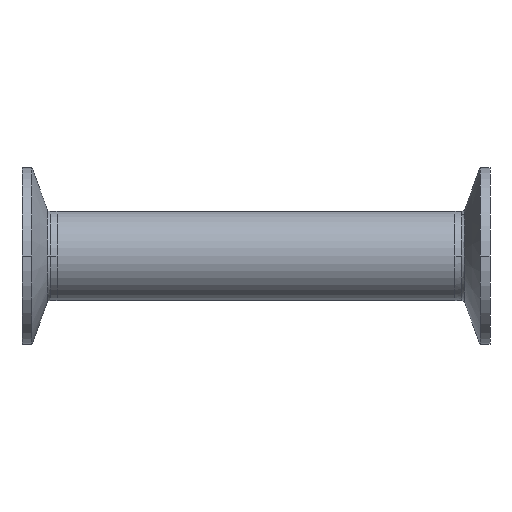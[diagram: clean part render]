
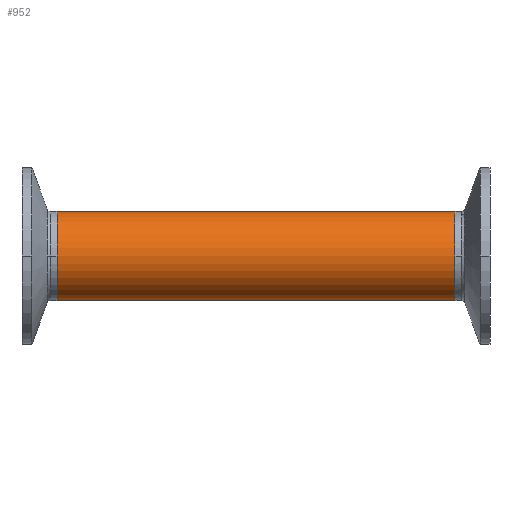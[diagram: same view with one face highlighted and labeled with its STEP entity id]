
A CAD part, front view. The second image highlights one B-rep face of the part: STEP entity #952.
In plain terms, the highlighted cylindrical face has radius 12.7 mm (diameter 25.4 mm), a partial arc.
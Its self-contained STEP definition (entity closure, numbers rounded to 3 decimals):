
#119 = DIRECTION ( 'NONE',  ( -1., 0., 0. ) ) ;
#181 = CYLINDRICAL_SURFACE ( 'NONE', #2264, 12.7 ) ;
#320 = CARTESIAN_POINT ( 'NONE',  ( 92.621, 0., -12.7 ) ) ;
#369 = VECTOR ( 'NONE', #2403, 1000. ) ;
#448 = LINE ( 'NONE', #320, #369 ) ;
#609 = ORIENTED_EDGE ( 'NONE', *, *, #2337, .T. ) ;
#666 = CARTESIAN_POINT ( 'NONE',  ( 56.7, 0., -12.7 ) ) ;
#702 = CARTESIAN_POINT ( 'NONE',  ( -56.7, 0., 0. ) ) ;
#887 = AXIS2_PLACEMENT_3D ( 'NONE', #702, #2816, #1006 ) ;
#952 = ADVANCED_FACE ( 'NONE', ( #3385 ), #181, .T. ) ;
#967 = CARTESIAN_POINT ( 'NONE',  ( 92.621, 0., 12.7 ) ) ;
#1006 = DIRECTION ( 'NONE',  ( 0., 0., 1. ) ) ;
#1109 = CARTESIAN_POINT ( 'NONE',  ( 56.7, 0., 0. ) ) ;
#1264 = VERTEX_POINT ( 'NONE', #1833 ) ;
#1286 = EDGE_CURVE ( 'NONE', #2644, #1264, #2884, .T. ) ;
#1290 = VECTOR ( 'NONE', #119, 1000. ) ;
#1419 = DIRECTION ( 'NONE',  ( 0., 0., 1. ) ) ;
#1428 = ORIENTED_EDGE ( 'NONE', *, *, #3072, .T. ) ;
#1594 = ORIENTED_EDGE ( 'NONE', *, *, #1286, .T. ) ;
#1729 = CIRCLE ( 'NONE', #1804, 12.7 ) ;
#1804 = AXIS2_PLACEMENT_3D ( 'NONE', #1109, #3224, #1419 ) ;
#1833 = CARTESIAN_POINT ( 'NONE',  ( -56.7, 0., 12.7 ) ) ;
#2264 = AXIS2_PLACEMENT_3D ( 'NONE', #3215, #2518, #3420 ) ;
#2266 = VERTEX_POINT ( 'NONE', #666 ) ;
#2337 = EDGE_CURVE ( 'NONE', #1264, #3062, #3333, .T. ) ;
#2403 = DIRECTION ( 'NONE',  ( -1., 0., 0. ) ) ;
#2442 = CARTESIAN_POINT ( 'NONE',  ( 56.7, 0., 12.7 ) ) ;
#2518 = DIRECTION ( 'NONE',  ( -1., 0., 0. ) ) ;
#2644 = VERTEX_POINT ( 'NONE', #2442 ) ;
#2816 = DIRECTION ( 'NONE',  ( 1., 0., 0. ) ) ;
#2884 = LINE ( 'NONE', #967, #1290 ) ;
#3062 = VERTEX_POINT ( 'NONE', #3168 ) ;
#3069 = EDGE_LOOP ( 'NONE', ( #3833, #1428, #1594, #609 ) ) ;
#3072 = EDGE_CURVE ( 'NONE', #2266, #2644, #1729, .T. ) ;
#3168 = CARTESIAN_POINT ( 'NONE',  ( -56.7, 0., -12.7 ) ) ;
#3215 = CARTESIAN_POINT ( 'NONE',  ( 92.621, 0., 0. ) ) ;
#3224 = DIRECTION ( 'NONE',  ( -1., 0., 0. ) ) ;
#3327 = EDGE_CURVE ( 'NONE', #2266, #3062, #448, .T. ) ;
#3333 = CIRCLE ( 'NONE', #887, 12.7 ) ;
#3385 = FACE_OUTER_BOUND ( 'NONE', #3069, .T. ) ;
#3420 = DIRECTION ( 'NONE',  ( 0., 0., 1. ) ) ;
#3833 = ORIENTED_EDGE ( 'NONE', *, *, #3327, .F. ) ;
